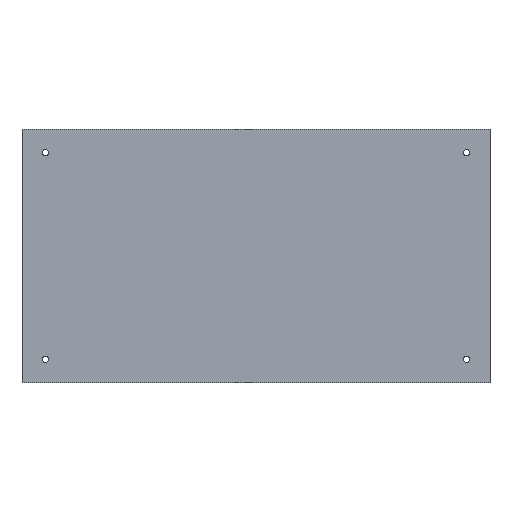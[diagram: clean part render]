
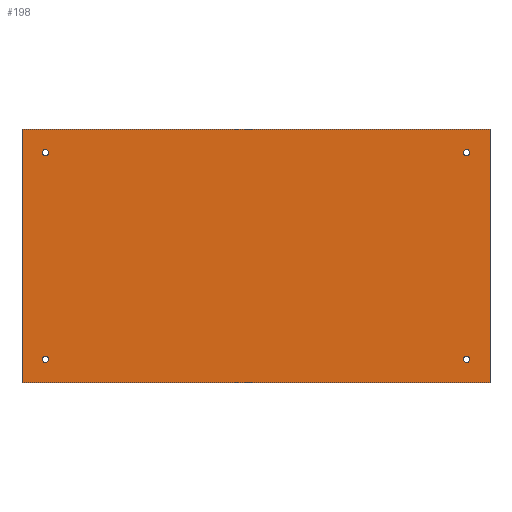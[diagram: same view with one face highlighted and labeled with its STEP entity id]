
A CAD part, top view. The second image highlights one B-rep face of the part: STEP entity #198.
In plain terms, the highlighted planar face has unit normal (0, 0, 1).
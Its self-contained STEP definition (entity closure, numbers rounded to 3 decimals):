
#42 = VERTEX_POINT('',#43);
#43 = CARTESIAN_POINT('',(240.,-130.,1.51));
#49 = EDGE_CURVE('',#42,#50,#52,.T.);
#50 = VERTEX_POINT('',#51);
#51 = CARTESIAN_POINT('',(0.,-130.,1.51));
#52 = LINE('',#53,#54);
#53 = CARTESIAN_POINT('',(240.,-130.,1.51));
#54 = VECTOR('',#55,1.);
#55 = DIRECTION('',(-1.,0.,0.));
#82 = VERTEX_POINT('',#83);
#83 = CARTESIAN_POINT('',(240.,0.,1.51));
#89 = EDGE_CURVE('',#82,#42,#90,.T.);
#90 = LINE('',#91,#92);
#91 = CARTESIAN_POINT('',(240.,0.,1.51));
#92 = VECTOR('',#93,1.);
#93 = DIRECTION('',(0.,-1.,0.));
#111 = EDGE_CURVE('',#50,#112,#114,.T.);
#112 = VERTEX_POINT('',#113);
#113 = CARTESIAN_POINT('',(0.,0.,1.51));
#114 = LINE('',#115,#116);
#115 = CARTESIAN_POINT('',(0.,-130.,1.51));
#116 = VECTOR('',#117,1.);
#117 = DIRECTION('',(0.,1.,0.));
#198 = ADVANCED_FACE('',(#199,#210,#221,#232,#243),#254,.T.);
#199 = FACE_BOUND('',#200,.T.);
#200 = EDGE_LOOP('',(#201,#202,#203,#209));
#201 = ORIENTED_EDGE('',*,*,#49,.F.);
#202 = ORIENTED_EDGE('',*,*,#89,.F.);
#203 = ORIENTED_EDGE('',*,*,#204,.F.);
#204 = EDGE_CURVE('',#112,#82,#205,.T.);
#205 = LINE('',#206,#207);
#206 = CARTESIAN_POINT('',(0.,0.,1.51));
#207 = VECTOR('',#208,1.);
#208 = DIRECTION('',(1.,0.,0.));
#209 = ORIENTED_EDGE('',*,*,#111,.F.);
#210 = FACE_BOUND('',#211,.T.);
#211 = EDGE_LOOP('',(#212));
#212 = ORIENTED_EDGE('',*,*,#213,.T.);
#213 = EDGE_CURVE('',#214,#214,#216,.T.);
#214 = VERTEX_POINT('',#215);
#215 = CARTESIAN_POINT('',(12.,-119.6,1.51));
#216 = CIRCLE('',#217,1.6);
#217 = AXIS2_PLACEMENT_3D('',#218,#219,#220);
#218 = CARTESIAN_POINT('',(12.,-118.,1.51));
#219 = DIRECTION('',(-0.,0.,-1.));
#220 = DIRECTION('',(-0.,-1.,0.));
#221 = FACE_BOUND('',#222,.T.);
#222 = EDGE_LOOP('',(#223));
#223 = ORIENTED_EDGE('',*,*,#224,.T.);
#224 = EDGE_CURVE('',#225,#225,#227,.T.);
#225 = VERTEX_POINT('',#226);
#226 = CARTESIAN_POINT('',(228.,-119.6,1.51));
#227 = CIRCLE('',#228,1.6);
#228 = AXIS2_PLACEMENT_3D('',#229,#230,#231);
#229 = CARTESIAN_POINT('',(228.,-118.,1.51));
#230 = DIRECTION('',(-0.,0.,-1.));
#231 = DIRECTION('',(-0.,-1.,0.));
#232 = FACE_BOUND('',#233,.T.);
#233 = EDGE_LOOP('',(#234));
#234 = ORIENTED_EDGE('',*,*,#235,.T.);
#235 = EDGE_CURVE('',#236,#236,#238,.T.);
#236 = VERTEX_POINT('',#237);
#237 = CARTESIAN_POINT('',(12.,-13.6,1.51));
#238 = CIRCLE('',#239,1.6);
#239 = AXIS2_PLACEMENT_3D('',#240,#241,#242);
#240 = CARTESIAN_POINT('',(12.,-12.,1.51));
#241 = DIRECTION('',(-0.,0.,-1.));
#242 = DIRECTION('',(-0.,-1.,0.));
#243 = FACE_BOUND('',#244,.T.);
#244 = EDGE_LOOP('',(#245));
#245 = ORIENTED_EDGE('',*,*,#246,.T.);
#246 = EDGE_CURVE('',#247,#247,#249,.T.);
#247 = VERTEX_POINT('',#248);
#248 = CARTESIAN_POINT('',(228.,-13.6,1.51));
#249 = CIRCLE('',#250,1.6);
#250 = AXIS2_PLACEMENT_3D('',#251,#252,#253);
#251 = CARTESIAN_POINT('',(228.,-12.,1.51));
#252 = DIRECTION('',(-0.,0.,-1.));
#253 = DIRECTION('',(-0.,-1.,0.));
#254 = PLANE('',#255);
#255 = AXIS2_PLACEMENT_3D('',#256,#257,#258);
#256 = CARTESIAN_POINT('',(0.,0.,1.51));
#257 = DIRECTION('',(0.,0.,1.));
#258 = DIRECTION('',(1.,0.,-0.));
